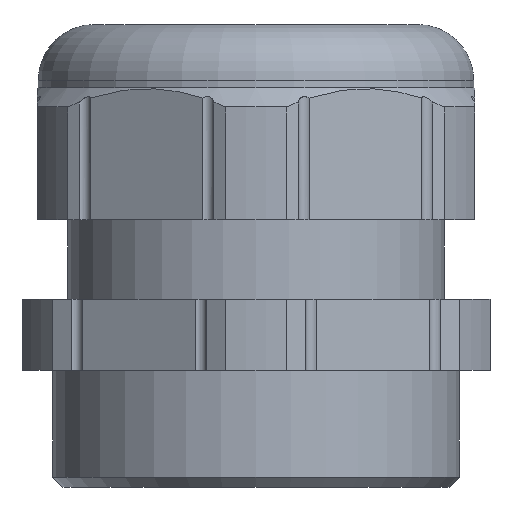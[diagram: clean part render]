
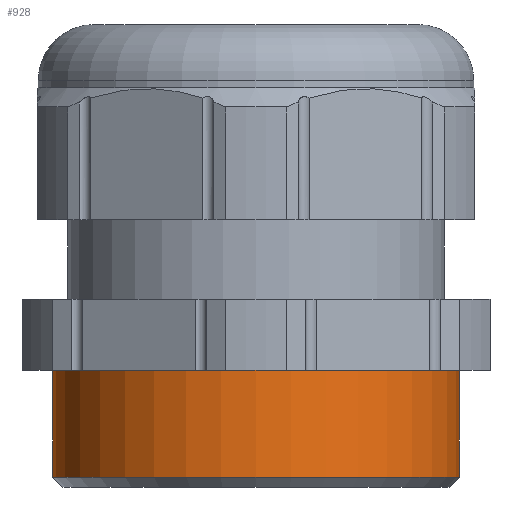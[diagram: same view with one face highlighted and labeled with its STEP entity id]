
A CAD part, front view. The second image highlights one B-rep face of the part: STEP entity #928.
In plain terms, the highlighted cylindrical face has radius 20 mm (diameter 40 mm), a partial arc.
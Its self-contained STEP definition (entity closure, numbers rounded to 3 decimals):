
#308 = VERTEX_POINT ( 'NONE', #2158 ) ;
#309 = VERTEX_POINT ( 'NONE', #2157 ) ;
#311 = EDGE_CURVE ( 'NONE', #309, #312, #2156, .T. ) ;
#312 = VERTEX_POINT ( 'NONE', #2152 ) ;
#315 = VERTEX_POINT ( 'NONE', #2146 ) ;
#317 = EDGE_CURVE ( 'NONE', #308, #315, #2145, .T. ) ;
#763 = EDGE_LOOP ( 'NONE', ( #764, #765, #767, #768 ) ) ;
#764 = ORIENTED_EDGE ( 'NONE', *, *, #311, .F. ) ;
#765 = ORIENTED_EDGE ( 'NONE', *, *, #766, .T. ) ;
#766 = EDGE_CURVE ( 'NONE', #309, #308, #3244, .T. ) ;
#767 = ORIENTED_EDGE ( 'NONE', *, *, #317, .T. ) ;
#768 = ORIENTED_EDGE ( 'NONE', *, *, #927, .F. ) ;
#927 = EDGE_CURVE ( 'NONE', #312, #315, #3458, .T. ) ;
#928 = ADVANCED_FACE ( 'NONE', ( #3453 ), #3452, .T. ) ;
#2142 = DIRECTION ( 'NONE',  ( 0., 0., -1. ) ) ;
#2143 = VECTOR ( 'NONE', #2142, 1000. ) ;
#2144 = CARTESIAN_POINT ( 'NONE',  ( -20., 0., 0. ) ) ;
#2145 = LINE ( 'NONE', #2144, #2143 ) ;
#2146 = CARTESIAN_POINT ( 'NONE',  ( -20., 0., 1. ) ) ;
#2152 = CARTESIAN_POINT ( 'NONE',  ( 20., 0., 1. ) ) ;
#2153 = DIRECTION ( 'NONE',  ( 0., 0., -1. ) ) ;
#2154 = VECTOR ( 'NONE', #2153, 1000. ) ;
#2155 = CARTESIAN_POINT ( 'NONE',  ( 20., 0., 0. ) ) ;
#2156 = LINE ( 'NONE', #2155, #2154 ) ;
#2157 = CARTESIAN_POINT ( 'NONE',  ( 20., 0., 11.5 ) ) ;
#2158 = CARTESIAN_POINT ( 'NONE',  ( -20., 0., 11.5 ) ) ;
#3240 = DIRECTION ( 'NONE',  ( -1., 0., 0. ) ) ;
#3241 = DIRECTION ( 'NONE',  ( 0., 0., -1. ) ) ;
#3242 = CARTESIAN_POINT ( 'NONE',  ( 0., 0., 11.5 ) ) ;
#3243 = AXIS2_PLACEMENT_3D ( 'NONE', #3242, #3241, #3240 ) ;
#3244 = CIRCLE ( 'NONE', #3243, 20. ) ;
#3447 = DIRECTION ( 'NONE',  ( -1., 0., 0. ) ) ;
#3448 = DIRECTION ( 'NONE',  ( 0., 0., -1. ) ) ;
#3449 = CARTESIAN_POINT ( 'NONE',  ( 0., 0., 0. ) ) ;
#3450 = AXIS2_PLACEMENT_3D ( 'NONE', #3449, #3448, #3447 ) ;
#3452 = CYLINDRICAL_SURFACE ( 'NONE', #3450, 20. ) ;
#3453 = FACE_OUTER_BOUND ( 'NONE', #763, .T. ) ;
#3454 = DIRECTION ( 'NONE',  ( -1., 0., 0. ) ) ;
#3455 = DIRECTION ( 'NONE',  ( 0., 0., -1. ) ) ;
#3456 = CARTESIAN_POINT ( 'NONE',  ( 0., 0., 1. ) ) ;
#3457 = AXIS2_PLACEMENT_3D ( 'NONE', #3456, #3455, #3454 ) ;
#3458 = CIRCLE ( 'NONE', #3457, 20. ) ;
